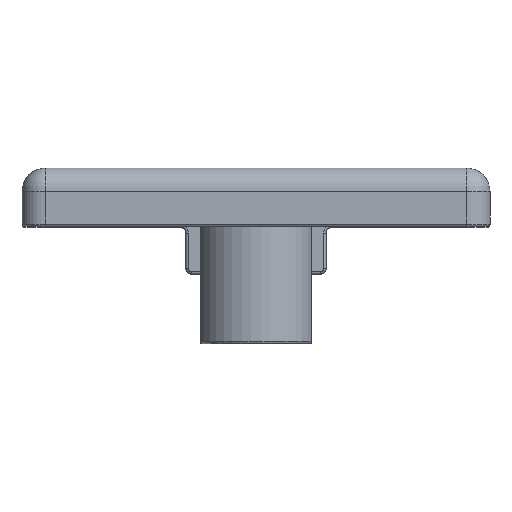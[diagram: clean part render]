
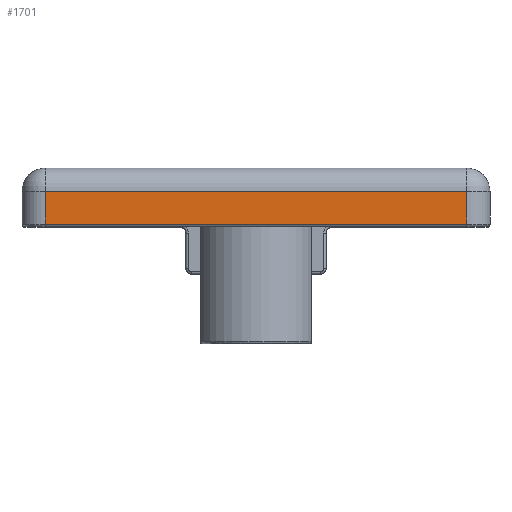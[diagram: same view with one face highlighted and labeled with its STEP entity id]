
A CAD part, top view. The second image highlights one B-rep face of the part: STEP entity #1701.
In plain terms, the highlighted planar face has unit normal (0, 0, 1).
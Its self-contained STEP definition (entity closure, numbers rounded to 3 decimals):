
#12 = FACE_OUTER_BOUND ( 'NONE', #2936, .T. ) ;
#42 = EDGE_CURVE ( 'NONE', #1895, #381, #1965, .T. ) ;
#209 = ORIENTED_EDGE ( 'NONE', *, *, #2741, .T. ) ;
#301 = CARTESIAN_POINT ( 'NONE',  ( -31.618, 1.5, -3.551 ) ) ;
#381 = VERTEX_POINT ( 'NONE', #1083 ) ;
#384 = CARTESIAN_POINT ( 'NONE',  ( -31.618, 2.5, -3.551 ) ) ;
#410 = CARTESIAN_POINT ( 'NONE',  ( -13.618, 1.5, -3.551 ) ) ;
#446 = CARTESIAN_POINT ( 'NONE',  ( -31.618, 0.1, -3.551 ) ) ;
#485 = VECTOR ( 'NONE', #3180, 1000. ) ;
#636 = DIRECTION ( 'NONE',  ( 0., -1., 0. ) ) ;
#811 = EDGE_CURVE ( 'NONE', #952, #381, #2604, .T. ) ;
#850 = CARTESIAN_POINT ( 'NONE',  ( -31.618, 2.5, -3.551 ) ) ;
#952 = VERTEX_POINT ( 'NONE', #446 ) ;
#1083 = CARTESIAN_POINT ( 'NONE',  ( -13.618, 0.1, -3.551 ) ) ;
#1180 = CARTESIAN_POINT ( 'NONE',  ( -13.618, 0.1, -3.551 ) ) ;
#1391 = VECTOR ( 'NONE', #636, 1000. ) ;
#1436 = DIRECTION ( 'NONE',  ( -1., 0., 0. ) ) ;
#1536 = VERTEX_POINT ( 'NONE', #301 ) ;
#1541 = ORIENTED_EDGE ( 'NONE', *, *, #811, .T. ) ;
#1673 = EDGE_CURVE ( 'NONE', #1895, #1536, #1957, .T. ) ;
#1684 = AXIS2_PLACEMENT_3D ( 'NONE', #850, #2792, #1436 ) ;
#1701 = ADVANCED_FACE ( 'NONE', ( #12 ), #3456, .F. ) ;
#1738 = CARTESIAN_POINT ( 'NONE',  ( -13.618, 2.5, -3.551 ) ) ;
#1772 = VECTOR ( 'NONE', #3094, 1000. ) ;
#1777 = VECTOR ( 'NONE', #3188, 1000. ) ;
#1895 = VERTEX_POINT ( 'NONE', #410 ) ;
#1957 = LINE ( 'NONE', #3410, #1777 ) ;
#1965 = LINE ( 'NONE', #1738, #1391 ) ;
#2604 = LINE ( 'NONE', #1180, #1772 ) ;
#2741 = EDGE_CURVE ( 'NONE', #1536, #952, #2878, .T. ) ;
#2792 = DIRECTION ( 'NONE',  ( 0., 0., -1. ) ) ;
#2802 = ORIENTED_EDGE ( 'NONE', *, *, #1673, .T. ) ;
#2878 = LINE ( 'NONE', #384, #485 ) ;
#2936 = EDGE_LOOP ( 'NONE', ( #209, #1541, #3187, #2802 ) ) ;
#3094 = DIRECTION ( 'NONE',  ( 1., 0., 0. ) ) ;
#3180 = DIRECTION ( 'NONE',  ( 0., -1., 0. ) ) ;
#3187 = ORIENTED_EDGE ( 'NONE', *, *, #42, .F. ) ;
#3188 = DIRECTION ( 'NONE',  ( -1., 0., 0. ) ) ;
#3410 = CARTESIAN_POINT ( 'NONE',  ( -31.618, 1.5, -3.551 ) ) ;
#3456 = PLANE ( 'NONE',  #1684 ) ;
